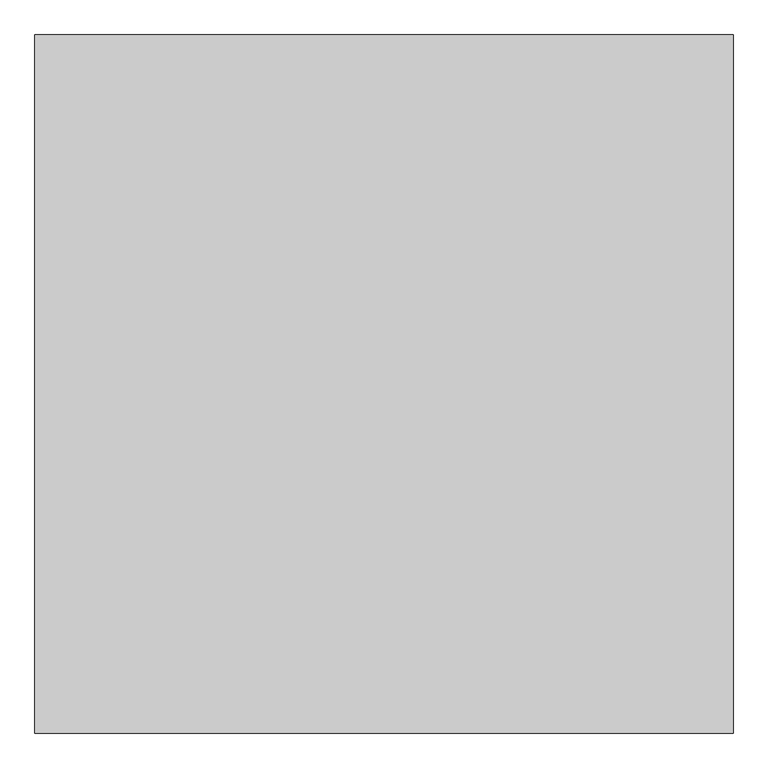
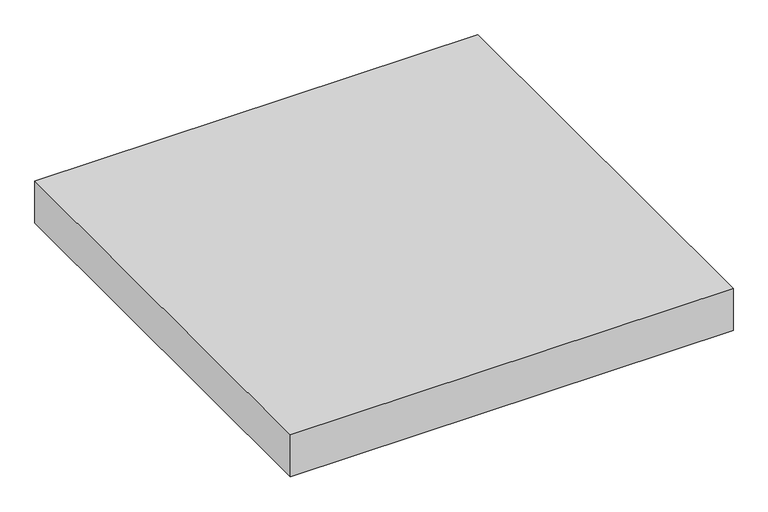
"""IFC4 building model written with IfcOpenShell, lengths in millimetres: proxy geometry, Modelos genéricos 6 : Modelos genéricos 1."""

from ifc_helpers import new_model, si_unit, origin, origin_with_axes, place, context, project, spatial, polyline, outline, extrude, source, transform, mapped, element, save


def generic_models_b631c376(model_context):
    return source(origin(), model_context, "Body", "SweptSolid", [
        extrude(outline(polyline([(-14225.6026359, -1045.712814), (-14225.6026359, -2545.712814), (-15725.6026359, -2545.712814), (-15725.6026359, -1045.712814), (-14225.6026359, -1045.712814)])), origin_with_axes(), (0.0, 0.0, 1.0), 150.0),
    ])


if __name__ == "__main__":
    model = new_model("IFC4")
    model_context = context("Model", 3, world=origin())
    ifc_project = project(units=[si_unit("LENGTHUNIT", "METRE", prefix="MILLI")], contexts=[model_context])
    site = spatial("IfcSite", under=ifc_project)
    building = spatial("IfcBuilding", under=site)
    placement = place(None, origin())
    generic_models_shape = generic_models_b631c376(model_context)
    element("IfcBuildingElementProxy", 1, Name="Modelos genéricos 6 : Modelos genéricos 1", ObjectType="Modelos genéricos 6 : Modelos genéricos 1", at=placement, inside=building, context=model_context, shape_type="MappedRepresentation", body=[
        mapped(generic_models_shape, transform((0.0, 0.0, 0.0), x_axis=(1.0, 0.0, 0.0), y_axis=(0.0, 1.0, 0.0), z_axis=(0.0, 0.0, 1.0))),
    ])
    save(model, "model.ifc")
